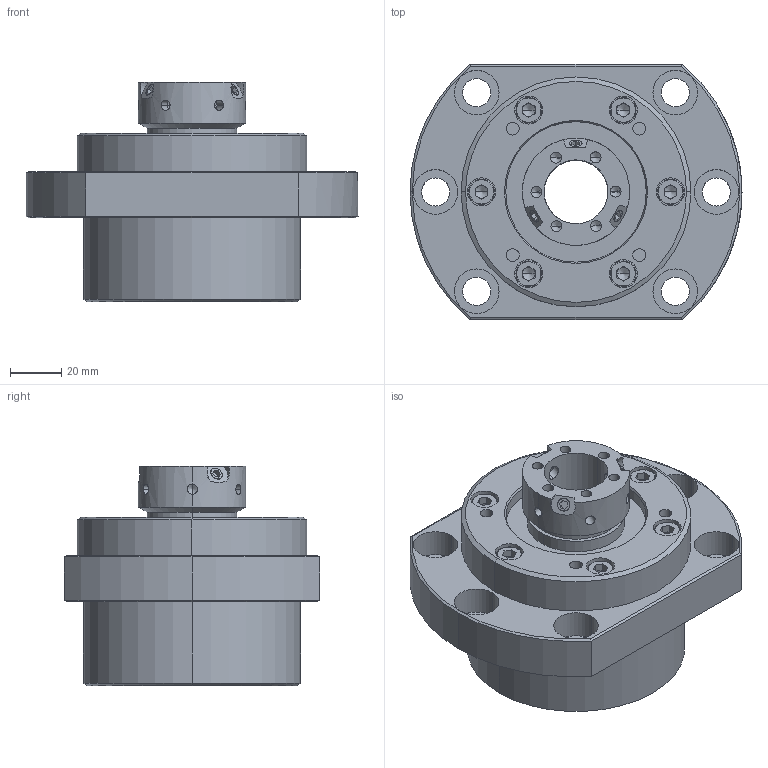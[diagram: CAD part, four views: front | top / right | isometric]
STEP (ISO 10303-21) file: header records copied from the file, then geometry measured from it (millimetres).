
FILE_DESCRIPTION (( 'STEP AP203' ), '1' );
FILE_NAME ('SWBK-25 DF.STEP', '2016-08-22T03:20:05', ( '' ), ( '' ), 'SwSTEP 2.0', 'SolidWorks 2016', '' );
FILE_SCHEMA (( 'CONFIG_CONTROL_DESIGN' ));
Length unit declared in the file: millimetre
Products named in the file (1): SWBK-25 DF
Bounding box: 130 x 100 x 86 mm (x, y, z)
Volume: 420468.3 mm3; surface area: 83196.3 mm2
Topology: 1 solids, 20 shells, 569 faces, 1279 edges, 742 vertices
Faces by surface type: cylinder 215, plane 164, cone 122, torus 68
Entity records: 16050 total; most frequent: CARTESIAN_POINT 3168, DIRECTION 2952, ORIENTED_EDGE 2434, EDGE_CURVE 1217, AXIS2_PLACEMENT_3D 1206, VERTEX_POINT 742, EDGE_LOOP 663, CIRCLE 636
